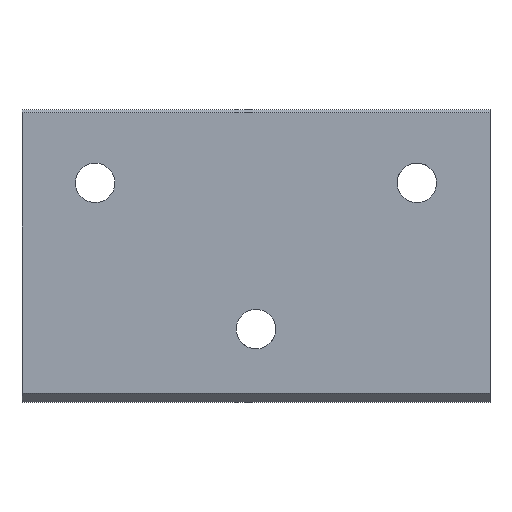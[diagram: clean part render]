
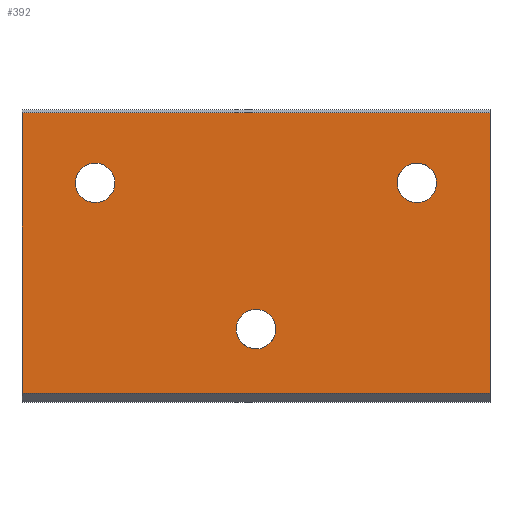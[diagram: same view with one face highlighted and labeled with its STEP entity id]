
A CAD part, left-side view. The second image highlights one B-rep face of the part: STEP entity #392.
In plain terms, the highlighted planar face has unit normal (-1, 0, 0).
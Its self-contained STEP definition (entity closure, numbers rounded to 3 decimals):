
#4 = FACE_BOUND ( 'NONE', #524, .T. ) ;
#5 = FACE_BOUND ( 'NONE', #745, .T. ) ;
#9 = DIRECTION ( 'NONE',  ( 0., -1., 0. ) ) ;
#10 = EDGE_CURVE ( 'NONE', #655, #254, #125, .T. ) ;
#13 = DIRECTION ( 'NONE',  ( 0., 1., 0. ) ) ;
#18 = AXIS2_PLACEMENT_3D ( 'NONE', #712, #422, #166 ) ;
#21 = EDGE_CURVE ( 'NONE', #550, #726, #743, .T. ) ;
#26 = EDGE_CURVE ( 'NONE', #254, #655, #133, .T. ) ;
#28 = DIRECTION ( 'NONE',  ( 0., -1., 0. ) ) ;
#32 = VECTOR ( 'NONE', #201, 1000. ) ;
#33 = LINE ( 'NONE', #156, #32 ) ;
#42 = FACE_BOUND ( 'NONE', #654, .T. ) ;
#47 = CARTESIAN_POINT ( 'NONE',  ( 0., 1.053, 18.274 ) ) ;
#56 = CARTESIAN_POINT ( 'NONE',  ( 0., -60.924, 78.236 ) ) ;
#96 = VECTOR ( 'NONE', #702, 1000. ) ;
#114 = CARTESIAN_POINT ( 'NONE',  ( 0., 49.076, 78.236 ) ) ;
#120 = CARTESIAN_POINT ( 'NONE',  ( 0., -6.347, 27.461 ) ) ;
#123 = VECTOR ( 'NONE', #423, 1000. ) ;
#125 = CIRCLE ( 'NONE', #835, 6.75 ) ;
#133 = CIRCLE ( 'NONE', #749, 6.75 ) ;
#155 = CIRCLE ( 'NONE', #536, 6.75 ) ;
#156 = CARTESIAN_POINT ( 'NONE',  ( 0., 0., 99. ) ) ;
#157 = VECTOR ( 'NONE', #13, 1000. ) ;
#166 = DIRECTION ( 'NONE',  ( 0., -1., 0. ) ) ;
#176 = CARTESIAN_POINT ( 'NONE',  ( 0., 55., 75. ) ) ;
#187 = CIRCLE ( 'NONE', #18, 6.75 ) ;
#199 = AXIS2_PLACEMENT_3D ( 'NONE', #860, #671, #489 ) ;
#201 = DIRECTION ( 'NONE',  ( 0., 1., 0. ) ) ;
#204 = CARTESIAN_POINT ( 'NONE',  ( 0., -80., 51. ) ) ;
#227 = CARTESIAN_POINT ( 'NONE',  ( 0., -5.924, 28.236 ) ) ;
#254 = VERTEX_POINT ( 'NONE', #56 ) ;
#258 = CARTESIAN_POINT ( 'NONE',  ( 0., -6.228, 22.252 ) ) ;
#261 = CARTESIAN_POINT ( 'NONE',  ( 0., 60.924, 71.764 ) ) ;
#271 = CARTESIAN_POINT ( 'NONE',  ( 0., -49.076, 71.764 ) ) ;
#287 = ORIENTED_EDGE ( 'NONE', *, *, #311, .T. ) ;
#297 = DIRECTION ( 'NONE',  ( -1., 0., 0. ) ) ;
#309 = PLANE ( 'NONE',  #395 ) ;
#311 = EDGE_CURVE ( 'NONE', #726, #649, #33, .T. ) ;
#314 = CARTESIAN_POINT ( 'NONE',  ( 0., 5.924, 21.764 ) ) ;
#317 = VERTEX_POINT ( 'NONE', #261 ) ;
#331 = CARTESIAN_POINT ( 'NONE',  ( 0., 0., 3. ) ) ;
#338 = LINE ( 'NONE', #616, #96 ) ;
#343 = ORIENTED_EDGE ( 'NONE', *, *, #10, .F. ) ;
#345 = DIRECTION ( 'NONE',  ( 0., 0., 1. ) ) ;
#352 = VERTEX_POINT ( 'NONE', #114 ) ;
#358 = CARTESIAN_POINT ( 'NONE',  ( 0., -55., 75. ) ) ;
#390 = VERTEX_POINT ( 'NONE', #314 ) ;
#392 = ADVANCED_FACE ( 'NONE', ( #521, #42, #5, #4 ), #309, .T. ) ;
#395 = AXIS2_PLACEMENT_3D ( 'NONE', #331, #297, #345 ) ;
#422 = DIRECTION ( 'NONE',  ( -1., 0., 0. ) ) ;
#423 = DIRECTION ( 'NONE',  ( 0., 0., 1. ) ) ;
#428 = ORIENTED_EDGE ( 'NONE', *, *, #861, .F. ) ;
#444 = CARTESIAN_POINT ( 'NONE',  ( 0., -4.012, 19.5 ) ) ;
#454 = ORIENTED_EDGE ( 'NONE', *, *, #21, .T. ) ;
#466 = CARTESIAN_POINT ( 'NONE',  ( 0., -80., 99. ) ) ;
#468 = VERTEX_POINT ( 'NONE', #613 ) ;
#477 = CARTESIAN_POINT ( 'NONE',  ( 0., -6.806, 24.844 ) ) ;
#482 = B_SPLINE_CURVE_WITH_KNOTS ( 'NONE', 3,
 ( #581, #758, #787, #643, #781, #47, #832, #806, #829, #444, #848, #810, #258, #504, #477, #800, #120, #766 ),
 .UNSPECIFIED., .F., .F.,
 ( 4, 2, 2, 2, 2, 2, 2, 2, 4 ),
 ( 0., 0.125, 0.25, 0.375, 0.5, 0.625, 0.75, 0.875, 1. ),
 .UNSPECIFIED. ) ;
#488 = DIRECTION ( 'NONE',  ( -1., 0., 0. ) ) ;
#489 = DIRECTION ( 'NONE',  ( 0., -1., 0. ) ) ;
#504 = CARTESIAN_POINT ( 'NONE',  ( 0., -6.726, 23.947 ) ) ;
#521 = FACE_OUTER_BOUND ( 'NONE', #786, .T. ) ;
#524 = EDGE_LOOP ( 'NONE', ( #343, #569 ) ) ;
#536 = AXIS2_PLACEMENT_3D ( 'NONE', #176, #704, #28 ) ;
#538 = CARTESIAN_POINT ( 'NONE',  ( 0., -80., 3. ) ) ;
#540 = EDGE_CURVE ( 'NONE', #468, #649, #338, .T. ) ;
#550 = VERTEX_POINT ( 'NONE', #538 ) ;
#555 = CARTESIAN_POINT ( 'NONE',  ( 0., -55., 75. ) ) ;
#569 = ORIENTED_EDGE ( 'NONE', *, *, #26, .F. ) ;
#572 = ORIENTED_EDGE ( 'NONE', *, *, #594, .F. ) ;
#581 = CARTESIAN_POINT ( 'NONE',  ( 0., 5.924, 21.764 ) ) ;
#591 = ORIENTED_EDGE ( 'NONE', *, *, #762, .F. ) ;
#594 = EDGE_CURVE ( 'NONE', #390, #675, #482, .T. ) ;
#608 = ORIENTED_EDGE ( 'NONE', *, *, #732, .F. ) ;
#613 = CARTESIAN_POINT ( 'NONE',  ( 0., 80., 3. ) ) ;
#616 = CARTESIAN_POINT ( 'NONE',  ( 0., 80., 51. ) ) ;
#623 = DIRECTION ( 'NONE',  ( -1., 0., 0. ) ) ;
#624 = LINE ( 'NONE', #715, #157 ) ;
#643 = CARTESIAN_POINT ( 'NONE',  ( 0., 3.546, 19.189 ) ) ;
#649 = VERTEX_POINT ( 'NONE', #737 ) ;
#654 = EDGE_LOOP ( 'NONE', ( #805, #428 ) ) ;
#655 = VERTEX_POINT ( 'NONE', #271 ) ;
#671 = DIRECTION ( 'NONE',  ( -1., 0., 0. ) ) ;
#675 = VERTEX_POINT ( 'NONE', #227 ) ;
#688 = EDGE_CURVE ( 'NONE', #317, #352, #748, .T. ) ;
#702 = DIRECTION ( 'NONE',  ( 0., 0., 1. ) ) ;
#704 = DIRECTION ( 'NONE',  ( -1., 0., 0. ) ) ;
#712 = CARTESIAN_POINT ( 'NONE',  ( 0., 0., 25. ) ) ;
#715 = CARTESIAN_POINT ( 'NONE',  ( 0., 0., 3. ) ) ;
#726 = VERTEX_POINT ( 'NONE', #466 ) ;
#732 = EDGE_CURVE ( 'NONE', #550, #468, #624, .T. ) ;
#737 = CARTESIAN_POINT ( 'NONE',  ( 0., 80., 99. ) ) ;
#743 = LINE ( 'NONE', #204, #123 ) ;
#745 = EDGE_LOOP ( 'NONE', ( #572, #591 ) ) ;
#748 = CIRCLE ( 'NONE', #199, 6.75 ) ;
#749 = AXIS2_PLACEMENT_3D ( 'NONE', #555, #488, #9 ) ;
#757 = ORIENTED_EDGE ( 'NONE', *, *, #540, .F. ) ;
#758 = CARTESIAN_POINT ( 'NONE',  ( 0., 5.5, 20.988 ) ) ;
#762 = EDGE_CURVE ( 'NONE', #675, #390, #187, .T. ) ;
#766 = CARTESIAN_POINT ( 'NONE',  ( 0., -5.924, 28.236 ) ) ;
#781 = CARTESIAN_POINT ( 'NONE',  ( 0., 2.748, 18.772 ) ) ;
#786 = EDGE_LOOP ( 'NONE', ( #608, #454, #287, #757 ) ) ;
#787 = CARTESIAN_POINT ( 'NONE',  ( 0., 4.922, 20.298 ) ) ;
#800 = CARTESIAN_POINT ( 'NONE',  ( 0., -6.617, 26.601 ) ) ;
#805 = ORIENTED_EDGE ( 'NONE', *, *, #688, .F. ) ;
#806 = CARTESIAN_POINT ( 'NONE',  ( 0., -1.601, 18.383 ) ) ;
#810 = CARTESIAN_POINT ( 'NONE',  ( 0., -5.811, 21.454 ) ) ;
#818 = DIRECTION ( 'NONE',  ( 0., -1., 0. ) ) ;
#829 = CARTESIAN_POINT ( 'NONE',  ( 0., -2.461, 18.653 ) ) ;
#832 = CARTESIAN_POINT ( 'NONE',  ( 0., 0.156, 18.194 ) ) ;
#835 = AXIS2_PLACEMENT_3D ( 'NONE', #358, #623, #818 ) ;
#848 = CARTESIAN_POINT ( 'NONE',  ( 0., -4.702, 20.078 ) ) ;
#860 = CARTESIAN_POINT ( 'NONE',  ( 0., 55., 75. ) ) ;
#861 = EDGE_CURVE ( 'NONE', #352, #317, #155, .T. ) ;
